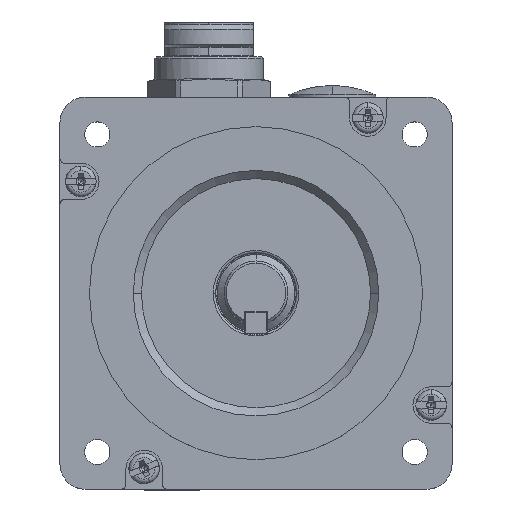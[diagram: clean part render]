
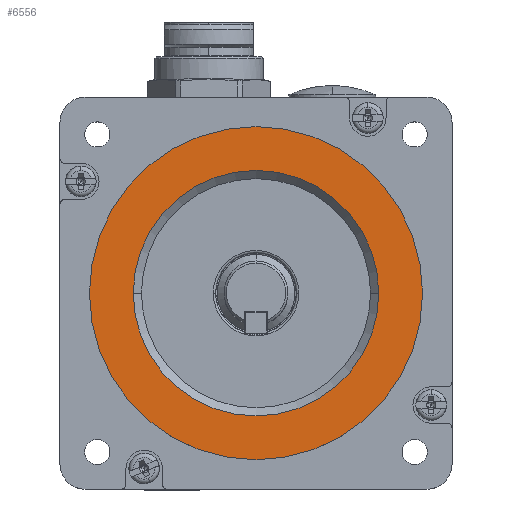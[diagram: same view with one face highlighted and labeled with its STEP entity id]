
A CAD part, top view. The second image highlights one B-rep face of the part: STEP entity #6556.
In plain terms, the highlighted planar face has unit normal (0, 0, 1).
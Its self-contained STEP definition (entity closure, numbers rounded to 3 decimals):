
#17 = CARTESIAN_POINT ( 'NONE',  ( 43.3, 43.354, 219.616 ) ) ;
#3191 = EDGE_LOOP ( 'NONE', ( #54565, #42069 ) ) ;
#3431 = EDGE_CURVE ( 'NONE', #33775, #68318, #41203, .T. ) ;
#6556 = ADVANCED_FACE ( 'NONE', ( #29992, #24082 ), #76719, .T. ) ;
#7049 = AXIS2_PLACEMENT_3D ( 'NONE', #9664, #39474, #27319 ) ;
#7915 = AXIS2_PLACEMENT_3D ( 'NONE', #64552, #53932, #40579 ) ;
#9664 = CARTESIAN_POINT ( 'NONE',  ( 43.3, 43.354, 219.616 ) ) ;
#13220 = AXIS2_PLACEMENT_3D ( 'NONE', #71492, #23150, #76220 ) ;
#17637 = CARTESIAN_POINT ( 'NONE',  ( 6.8, 43.354, 219.616 ) ) ;
#22061 = CIRCLE ( 'NONE', #7049, 26.9 ) ;
#22460 = EDGE_CURVE ( 'NONE', #68318, #33775, #65868, .T. ) ;
#23150 = DIRECTION ( 'NONE',  ( 0., 0., 1. ) ) ;
#24082 = FACE_OUTER_BOUND ( 'NONE', #3191, .T. ) ;
#25904 = ORIENTED_EDGE ( 'NONE', *, *, #33993, .T. ) ;
#27319 = DIRECTION ( 'NONE',  ( 1., 0., 0. ) ) ;
#27866 = CIRCLE ( 'NONE', #63015, 26.9 ) ;
#28488 = EDGE_CURVE ( 'NONE', #44305, #44411, #27866, .T. ) ;
#29992 = FACE_BOUND ( 'NONE', #68993, .T. ) ;
#33158 = DIRECTION ( 'NONE',  ( 1., 0., 0. ) ) ;
#33775 = VERTEX_POINT ( 'NONE', #17637 ) ;
#33993 = EDGE_CURVE ( 'NONE', #44411, #44305, #22061, .T. ) ;
#39474 = DIRECTION ( 'NONE',  ( 0., 0., -1. ) ) ;
#40579 = DIRECTION ( 'NONE',  ( 1., 0., 0. ) ) ;
#41203 = CIRCLE ( 'NONE', #53731, 36.5 ) ;
#42069 = ORIENTED_EDGE ( 'NONE', *, *, #3431, .T. ) ;
#43095 = CARTESIAN_POINT ( 'NONE',  ( 79.8, 43.354, 219.616 ) ) ;
#44305 = VERTEX_POINT ( 'NONE', #58162 ) ;
#44411 = VERTEX_POINT ( 'NONE', #66003 ) ;
#47896 = DIRECTION ( 'NONE',  ( 0., 0., -1. ) ) ;
#53731 = AXIS2_PLACEMENT_3D ( 'NONE', #68146, #68536, #33158 ) ;
#53932 = DIRECTION ( 'NONE',  ( 0., 0., 1. ) ) ;
#54565 = ORIENTED_EDGE ( 'NONE', *, *, #22460, .T. ) ;
#58162 = CARTESIAN_POINT ( 'NONE',  ( 16.4, 43.354, 219.616 ) ) ;
#63015 = AXIS2_PLACEMENT_3D ( 'NONE', #17, #47896, #77401 ) ;
#64552 = CARTESIAN_POINT ( 'NONE',  ( 5.85, 5.904, 219.616 ) ) ;
#65868 = CIRCLE ( 'NONE', #13220, 36.5 ) ;
#66003 = CARTESIAN_POINT ( 'NONE',  ( 70.2, 43.354, 219.616 ) ) ;
#68146 = CARTESIAN_POINT ( 'NONE',  ( 43.3, 43.354, 219.616 ) ) ;
#68318 = VERTEX_POINT ( 'NONE', #43095 ) ;
#68536 = DIRECTION ( 'NONE',  ( 0., 0., 1. ) ) ;
#68993 = EDGE_LOOP ( 'NONE', ( #25904, #74360 ) ) ;
#71492 = CARTESIAN_POINT ( 'NONE',  ( 43.3, 43.354, 219.616 ) ) ;
#74360 = ORIENTED_EDGE ( 'NONE', *, *, #28488, .T. ) ;
#76220 = DIRECTION ( 'NONE',  ( 1., 0., 0. ) ) ;
#76719 = PLANE ( 'NONE',  #7915 ) ;
#77401 = DIRECTION ( 'NONE',  ( 1., 0., 0. ) ) ;
